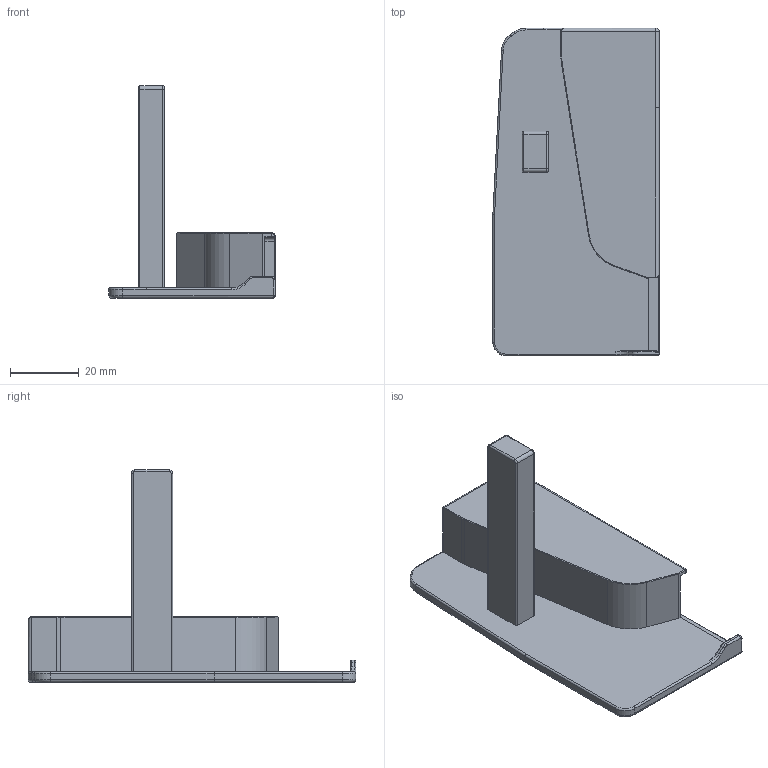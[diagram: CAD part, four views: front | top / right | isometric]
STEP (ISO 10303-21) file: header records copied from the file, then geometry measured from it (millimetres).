
FILE_DESCRIPTION (( 'STEP AP203' ), '1' );
FILE_NAME ('M01012-R.STEP', '2020-08-07T07:59:11', ( 'Users' ), ( 'Microsoft' ), 'SwSTEP 2.0', 'SolidWorks 2018', '' );
FILE_SCHEMA (( 'CONFIG_CONTROL_DESIGN' ));
Length unit declared in the file: millimetre
Products named in the file (1): M01012-R
Bounding box: 48.3 x 95.2 x 61.7 mm (x, y, z)
Volume: 42540.9 mm3; surface area: 15383.7 mm2
Topology: 1 solids, 1 shells, 112 faces, 270 edges, 156 vertices
Faces by surface type: cylinder 58, plane 26, torus 22, bspline 4, sphere 2
Entity records: 3355 total; most frequent: CARTESIAN_POINT 684, DIRECTION 582, ORIENTED_EDGE 530, EDGE_CURVE 265, AXIS2_PLACEMENT_3D 224, VERTEX_POINT 156, LINE 134, VECTOR 134
